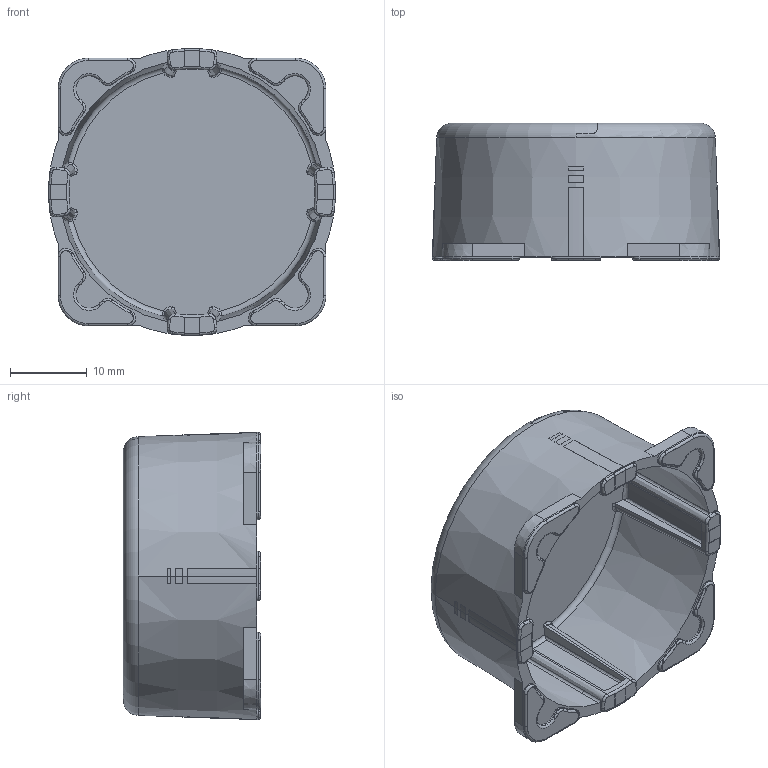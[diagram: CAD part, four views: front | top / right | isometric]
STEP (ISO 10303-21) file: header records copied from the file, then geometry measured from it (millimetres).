
FILE_DESCRIPTION((''),'2;1');
FILE_NAME('9002225L0-L01-IRIDIUM_CAP_ANT_ASM','2025-01-21T18:04:51',('sproust'),(''),'CREO PARAMETRIC BY PTC INC, 2023072','CREO PARAMETRIC BY PTC INC, 2023072','');
FILE_SCHEMA(('AUTOMOTIVE_DESIGN { 1 0 10303 214 1 1 1 1 }'));
Length unit declared in the file: millimetre
Products named in the file (4): 9002129-CAP_ANTENNA_CARRIER; 9002225L0-L01_PATTERN; 9002225L0-L01-PAD_PRINTING_LOGO; 9002225L0-L01-IRIDIUM_CAP_ANT_ASM
Assembly tree (3 placements, depth 2):
  9002225L0-L01-IRIDIUM_CAP_ANT_ASM
    9002129-CAP_ANTENNA_CARRIER
    9002225L0-L01_PATTERN
    9002225L0-L01-PAD_PRINTING_LOGO
Bounding box: 37.52 x 17.97 x 37.52 mm (x, y, z)
Volume: 4604.5 mm3; surface area: 7074.7 mm2
Topology: 50 solids, 50 shells, 970 faces, 2356 edges, 1486 vertices
Faces by surface type: plane 381, extrusion 171, torus 122, bspline 117, cone 106, cylinder 73
Entity records: 42157 total; most frequent: CARTESIAN_POINT 13202, ORIENTED_EDGE 4712, DIRECTION 3788, PRESENTATION_STYLE_ASSIGNMENT 2406, STYLED_ITEM 2406, CURVE_STYLE 2356, EDGE_CURVE 2356, VERTEX_POINT 1486
